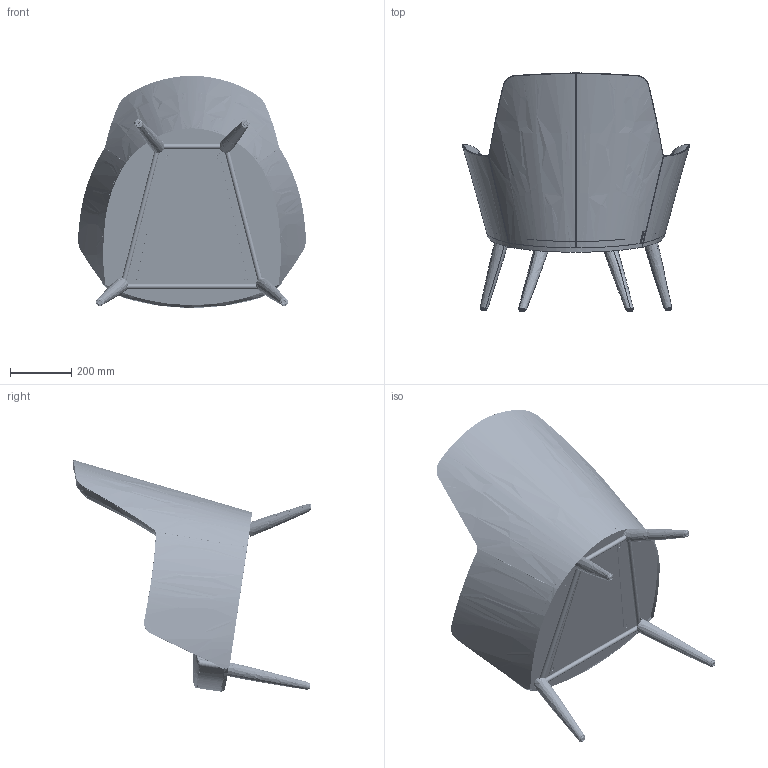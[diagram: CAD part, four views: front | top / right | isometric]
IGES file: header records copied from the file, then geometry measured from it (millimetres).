
Start section: SolidWorks IGES file using analytic representation for surfaces
Global section: file name: C:\Users\Design\Desktop\GL030 Relax Low Back - Wood Series.IGS; native system: SolidWorks 2016; preprocessor: SolidWorks 2016; author: Design; date: 160314.102831; units: millimetre
Bounding box: 745.69 x 781 x 760.27 mm (x, y, z)
Surface area: 4020536.3 mm2 (no closed solid volume)
Topology: 0 solids, 0 shells, 5532 faces, 30044 edges, 27134 vertices
Faces by surface type: revolution 5045, bspline 487
